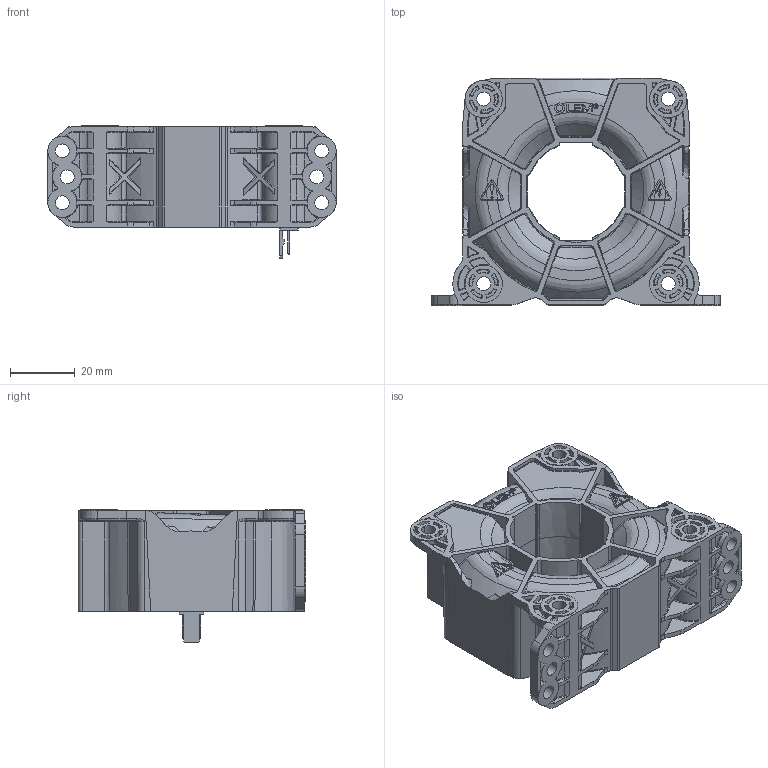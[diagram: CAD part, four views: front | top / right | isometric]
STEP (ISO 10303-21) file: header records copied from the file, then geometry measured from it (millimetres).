
FILE_DESCRIPTION(('Creo Elements/Direct Modeling STEP Export'),'2;1');
FILE_NAME('Blackbox_LF_510_A.stp','2014-09-25T12:41:47',(''),(''),'Creo Elements/Direct Modeling STEP processor for AP214 (Solid Model)','Creo Elements/Direct Modeling 17.0C 05-Feb-2011 (C) Parametric Technology GmbH','');
FILE_SCHEMA(('AUTOMOTIVE_DESIGN { 1 0 10303 214 1 1 1 1 }'));
Products named in the file (1): LF_510_OUTLINE_A
Bounding box: 89 x 70.3 x 40.94 mm (x, y, z)
Volume: 102260.2 mm3; surface area: 25573.7 mm2
Topology: 1 solids, 1 shells, 2093 faces, 5286 edges, 3242 vertices
Faces by surface type: bspline 1064, plane 558, cylinder 271, cone 104, torus 76, sphere 11, extrusion 9
Entity records: 141484 total; most frequent: CARTESIAN_POINT 101966, ORIENTED_EDGE 10546, EDGE_CURVE 5273, DIRECTION 4249, VERTEX_POINT 3242, B_SPLINE_CURVE_WITH_KNOTS 2506, EDGE_LOOP 2175, FACE_OUTER_BOUND 2093
